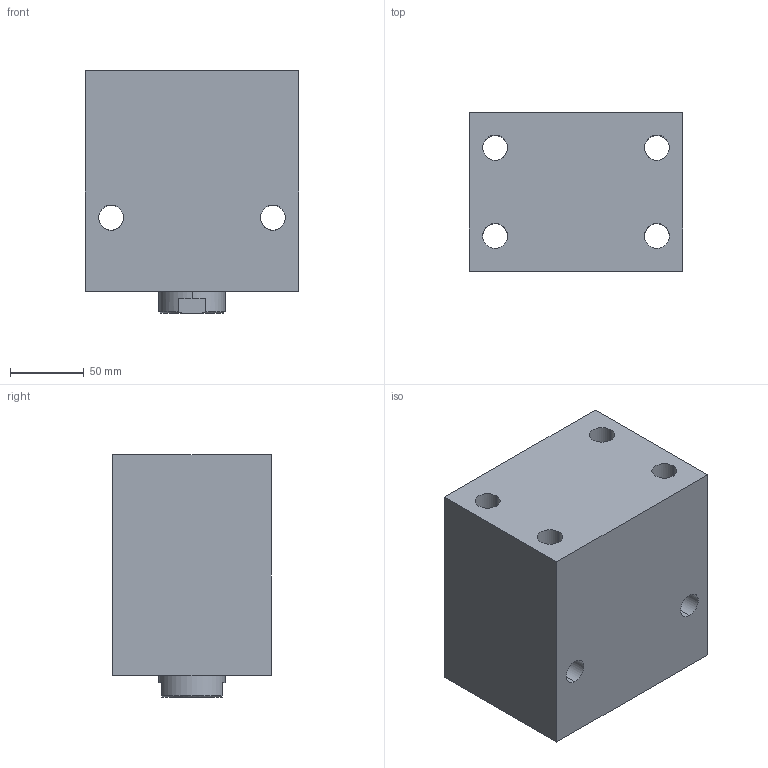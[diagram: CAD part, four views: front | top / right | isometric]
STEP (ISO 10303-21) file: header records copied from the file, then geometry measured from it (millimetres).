
FILE_DESCRIPTION (( 'STEP AP203' ), '1' );
FILE_NAME ('Block cylinder B01C-775F.STEP', '2022-07-09T18:36:39', ( '' ), ( '' ), 'SwSTEP 2.0', 'SolidWorks 2017', '' );
FILE_SCHEMA (( 'CONFIG_CONTROL_DESIGN' ));
Length unit declared in the file: millimetre
Products named in the file (3): Body_ 775F_50ST; Piston _775F; Block cylinder B01C-775F
Assembly tree (2 placements, depth 2):
  Block cylinder B01C-775F
    Body_ 775F_50ST
    Piston _775F
Bounding box: 145 x 108 x 165 mm (x, y, z)
Volume: 2325629.4 mm3; surface area: 176445.9 mm2
Topology: 2 solids, 2 shells, 334 faces, 915 edges, 597 vertices
Faces by surface type: plane 148, bspline 134, cylinder 44, cone 8
Entity records: 16200 total; most frequent: CARTESIAN_POINT 8403, ORIENTED_EDGE 1818, DIRECTION 1077, EDGE_CURVE 909, VERTEX_POINT 597, LINE 543, VECTOR 543, EDGE_LOOP 372
